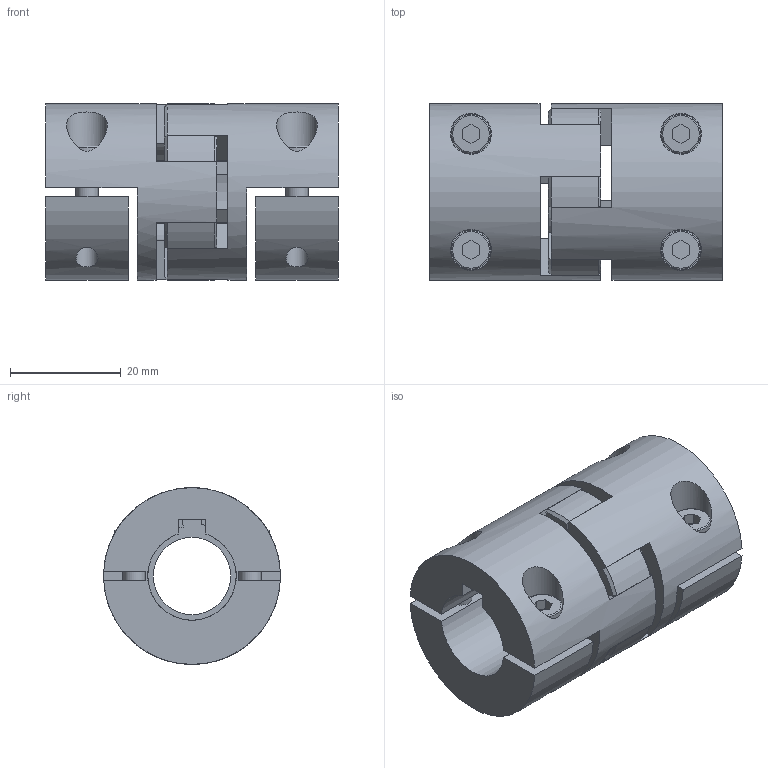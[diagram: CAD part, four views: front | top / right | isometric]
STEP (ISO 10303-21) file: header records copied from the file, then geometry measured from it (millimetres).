
FILE_DESCRIPTION(/* description */ ('STEP AP214'),/* implementation_level */ '2;1');
FILE_NAME(/* name */ 'C:\Diequa Files\DieQua Coupling\ECS\STP\ECS.10.ABC.#.#.stp',/* time_stamp */ '2018-12-07T11:26:25-06:00',/* author */ ('DiequaCAD'),/* organization */ (''),/* preprocessor_version */ 'ST-DEVELOPER v17.2',/* originating_system */ 'Autodesk Inventor 2019',/* authorisation */ ' ');
FILE_SCHEMA (('AUTOMOTIVE_DESIGN { 1 0 10303 214 3 1 1 }'));
Length unit declared in the file: millimetre
Products named in the file (4): EKH_10_A_16_PFN_16_PFN_44; 2018_11_29__15-57-59-793; 2018_11_29__15-57-59-793_1; 2018_11_29__15-57-59-793_2
Assembly tree (3 placements, depth 2):
  EKH_10_A_16_PFN_16_PFN_44
    2018_11_29__15-57-59-793
    2018_11_29__15-57-59-793_1
    2018_11_29__15-57-59-793_2
Bounding box: 53 x 32 x 32 mm (x, y, z)
Volume: 27877.5 mm3; surface area: 16421.4 mm2
Topology: 3 solids, 3 shells, 165 faces, 455 edges, 316 vertices
Faces by surface type: plane 102, cylinder 47, cone 12, torus 4
Full cylindrical faces by diameter (mm): 4 x8, 4.2 x4, 7 x4, 7.4 x4, 14 x1, 32 x2
Entity records: 5803 total; most frequent: CARTESIAN_POINT 1247, DIRECTION 949, ORIENTED_EDGE 910, EDGE_CURVE 455, AXIS2_PLACEMENT_3D 338, VERTEX_POINT 316, LINE 273, VECTOR 273
